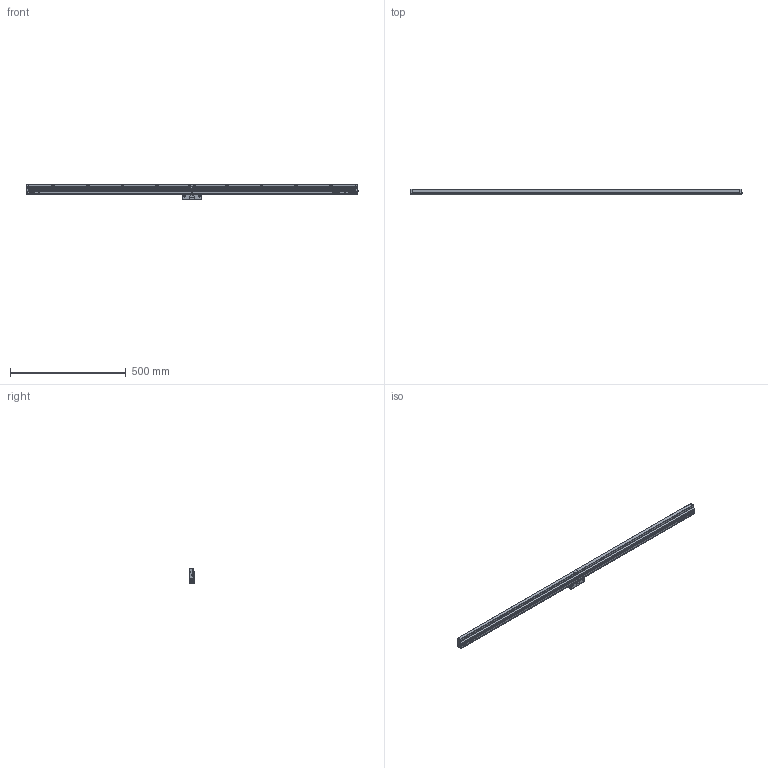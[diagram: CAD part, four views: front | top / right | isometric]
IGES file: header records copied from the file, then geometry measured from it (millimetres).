
Start section: Elysium IGES Interface
Global section: file name: 100H\\Utsu119s\kiyo_cad\data\3D\ABS AT1300\HP掲載用_201802\ABS AT1300-Sシリーズ\PKG\ABS AT1300-1300S.igs; native system: Creo Elements/Direct Modeling 18.1B  29-Sep-2012; preprocessor: Creo Element/Direct IGES_3D V2.2; author: Unknown; organization: Unknown; date: 20180223.094738; units: millimetre
Bounding box: 1432.87 x 23 x 66 mm (x, y, z)
Volume: 1238727.5 mm3; surface area: 222825.3 mm2
Topology: 2 solids, 10 shells, 1289 faces, 3686 edges, 2548 vertices
Faces by surface type: bspline 1289
